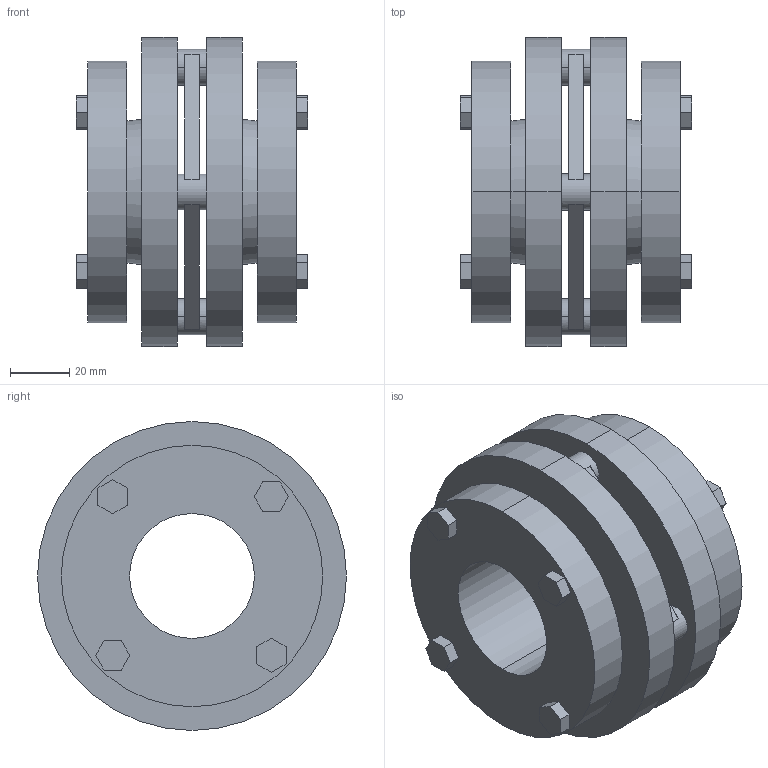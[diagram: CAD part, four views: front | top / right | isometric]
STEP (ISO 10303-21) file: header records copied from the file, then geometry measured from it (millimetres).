
FILE_DESCRIPTION (( 'STEP AP203' ), '1' );
FILE_NAME ('SW-104(D£p42~£p50).STEP', '2009-09-30T15:42:51', ( 'USER' ), ( 'HOME' ), 'SwSTEP 2.0', 'SolidWorks 2007', '' );
FILE_SCHEMA (( 'CONFIG_CONTROL_DESIGN' ));
Length unit declared in the file: millimetre
Products named in the file (1): SW-104(D｣p42~｣p50)
Bounding box: 78 x 104 x 104 mm (x, y, z)
Volume: 320143 mm3; surface area: 80721.8 mm2
Topology: 9 solids, 9 shells, 108 faces, 270 edges, 180 vertices
Faces by surface type: plane 78, cylinder 26, cone 4
Entity records: 3327 total; most frequent: DIRECTION 564, CARTESIAN_POINT 559, ORIENTED_EDGE 540, EDGE_CURVE 270, LINE 194, VECTOR 194, AXIS2_PLACEMENT_3D 185, VERTEX_POINT 180
